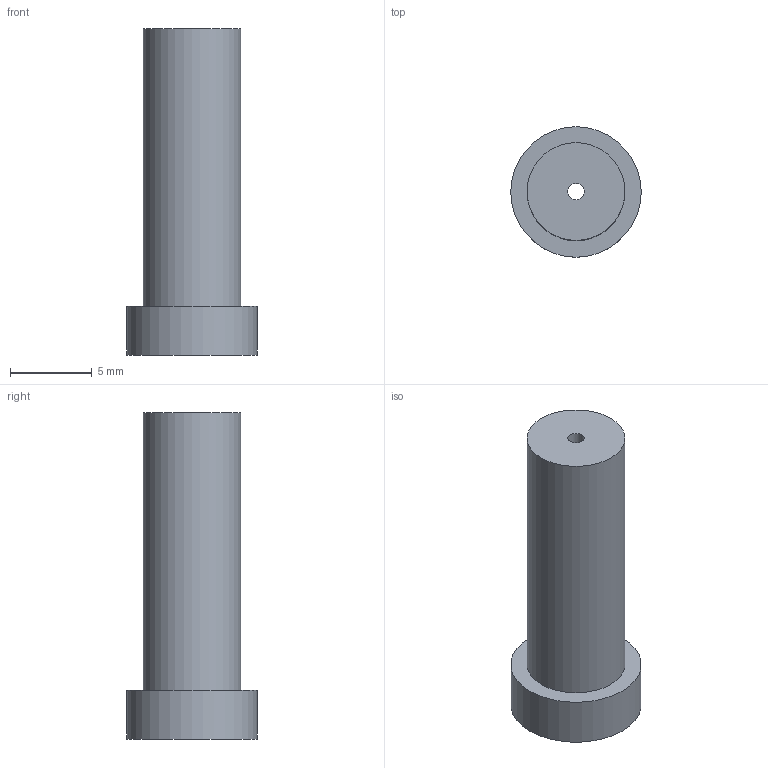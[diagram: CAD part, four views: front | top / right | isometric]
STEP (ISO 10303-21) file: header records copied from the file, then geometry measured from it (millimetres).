
FILE_DESCRIPTION(('Open CASCADE Model'),'2;1');
FILE_NAME('Open CASCADE Shape Model','2026-10-28T05:14:49',('Author'),( 'Open CASCADE'),'Open CASCADE STEP processor 7.8','Open CASCADE 7.8' ,'Unknown');
FILE_SCHEMA(('AUTOMOTIVE_DESIGN { 1 0 10303 214 1 1 1 1 }'));
Length unit declared in the file: millimetre
Products named in the file (1): Open CASCADE STEP translator 7.8 1
Bounding box: 8 x 8 x 20 mm (x, y, z)
Volume: 593.2 mm3; surface area: 586.8 mm2
Topology: 1 solids, 1 shells, 8 faces, 13 edges, 8 vertices
Faces by surface type: cylinder 4, plane 3, cone 1
Full cylindrical faces by diameter (mm): 1 x1, 2 x1, 6 x1, 8 x1
Entity records: 375 total; most frequent: DIRECTION 64, CARTESIAN_POINT 62, ORIENTED_EDGE 26, PCURVE 26, DEFINITIONAL_REPRESENTATION 26, LINE 25, VECTOR 25, AXIS2_PLACEMENT_3D 17
